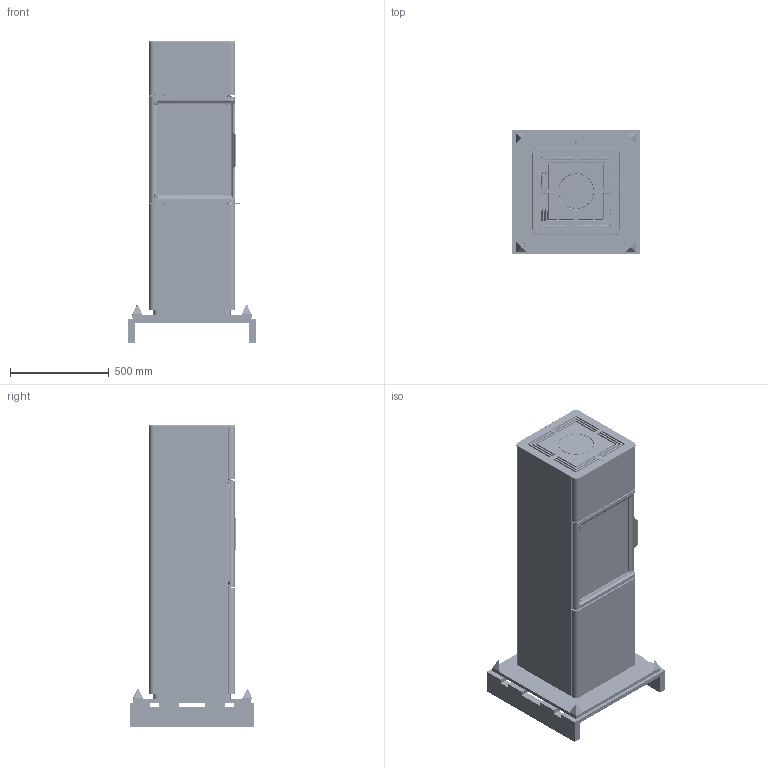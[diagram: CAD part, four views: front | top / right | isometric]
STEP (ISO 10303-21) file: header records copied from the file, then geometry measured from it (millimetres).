
FILE_DESCRIPTION(/* description */ ('Unknown'),/* implementation_level */ '2;1');
FILE_NAME(/* name */ 'Contura 410 höger svart',/* time_stamp */ '2026-03-11T13:47:10+01:00',/* author */ ('Unknown'),/* organization */ ('Unknown'),/* preprocessor_version */ 'ST-DEVELOPER v20',/* originating_system */ 'Solid Edge',/* authorisation */ 'Unknown');
FILE_SCHEMA (('AUTOMOTIVE_DESIGN {1 0 10303 214 3 1 1}'));
Products named in the file (294): DSN1131330; DSN1087844_oa_0; DSN1087734_oa_1; DSN1130404_oa_2; DSN1089377_oa_3; DSN1104774_oa_4; DSN1089373; DSN1099386; DSN1089374_oa_5; DSN1089386; DSN1074449; DSN1089387; DSN1123089_oa_6; DSN1089428; DSN1083847; FilletWeld_3; DSN1089429; FilletWeld_1; DSN1023399; DSN1083862; DSN1067626; FilletWeld_4; FilletWeld_5; DSN1121543_oa_7; 416213 Blindnitmutter Sluten M10; DSN1121540; DSN1121542; DSN1121560; 016710 Skruv M6SF TT M6x16 fzb; 803700 Ställbar fot M10 kort; ExtrudedProtrusion_1; DSN1125092; ExtrudedProtrusion_2; ExtrudedProtrusion_3; FilletWeld_6; FilletWeld_9; FilletWeld_12; FilletWeld_17; FilletWeld_23; GrooveWeld_1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
Assembly tree (516 placements, depth 7):
  DSN1131330
    DSN1087844_oa_0
      DSN1087734_oa_1
        DSN1130404_oa_2
          DSN1089377_oa_3
            DSN1104774_oa_4
            DSN1089373
            DSN1099386
            DSN1089374_oa_5
            DSN1089386
            DSN1074449  x2
            DSN1089387
            DSN1123089_oa_6
            DSN1089428
            DSN1083847
            FilletWeld_3
            DSN1089429
            FilletWeld_1
            DSN1023399  x2
            DSN1083862
            DSN1067626
            FilletWeld_4
            FilletWeld_5
            DSN1121543_oa_7
              416213 Blindnitmutter Sluten M10  x4
              DSN1121540
              DSN1121542
              DSN1121560
              016710 Skruv M6SF TT M6x16 fzb  x4
              FilletWeld_1
              803700 Ställbar fot M10 kort  x4
              ExtrudedProtrusion_1
              DSN1125092  x2
              ExtrudedProtrusion_2
              ExtrudedProtrusion_3
            FilletWeld_6
            FilletWeld_9
            FilletWeld_12
            FilletWeld_17
            FilletWeld_23
            GrooveWeld_1
            GrooveWeld_2
            DSN1121563
            GrooveWeld_4
            FilletWeld_25
            FilletWeld_26
            GrooveWeld_10
            FilletWeld_30
            GrooveWeld_18
            GrooveWeld_17
            GrooveWeld_16
            GrooveWeld_15
            GrooveWeld_14
            GrooveWeld_19
            GrooveWeld_13
            FilletWeld_33
            FilletWeld_32
            FilletWeld_34
            ExtrudedProtrusion_5
            ExtrudedProtrusion_6
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Bounding box: 650 x 630 x 1533 mm (x, y, z)
Volume: 42137158.2 mm3; surface area: 15522355.6 mm2
Topology: 648 solids, 650 shells, 21668 faces, 53521 edges, 32940 vertices
Faces by surface type: plane 10133, cylinder 6150, bspline 2042, torus 1621, cone 1210, sphere 512
Full cylindrical faces by diameter (mm): 1 x1, 1.5 x2, 2.8 x16, 3.242 x6, 3.291 x60, 3.4 x2, 3.5 x31, 3.65 x8, 3.8 x8, 3.9 x6, 4 x82, 4.15 x4, 4.2 x69, 4.3 x15, 4.334 x4, 4.5 x46, 4.6 x8, 4.8 x2, 4.917 x22, 5 x57, 5.2 x8, 5.3 x16, 5.5 x4, 5.6 x57, 5.7 x1, 5.8 x4, 5.9 x4, 6 x53, 6.1 x2, 6.3 x2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
Entity records: 486388 total; most frequent: CARTESIAN_POINT 143074, ORIENTED_EDGE 68722, DIRECTION 67880, EDGE_CURVE 34361, AXIS2_PLACEMENT_3D 23737, VERTEX_POINT 21824, LINE 20406, VECTOR 20406
